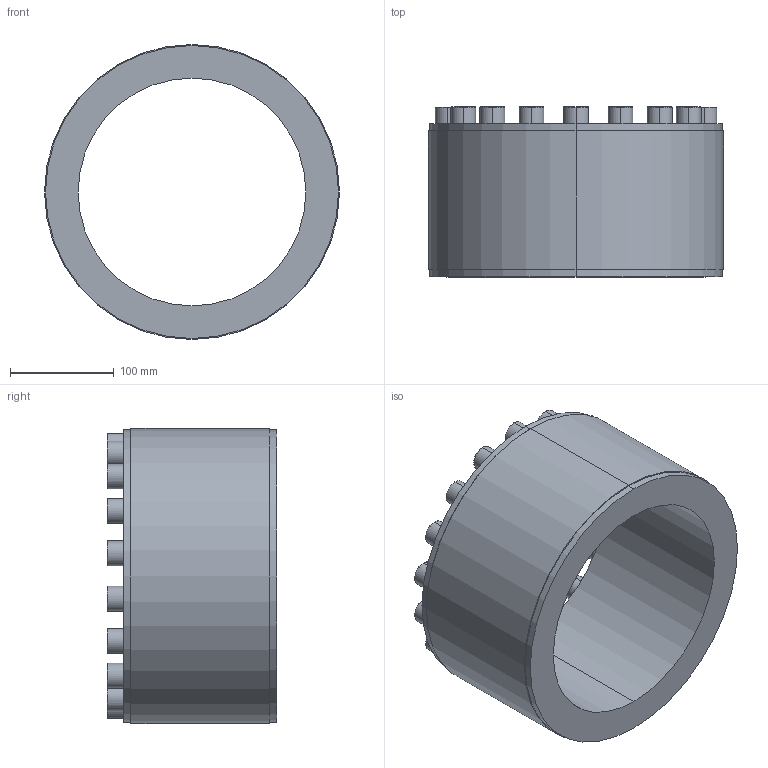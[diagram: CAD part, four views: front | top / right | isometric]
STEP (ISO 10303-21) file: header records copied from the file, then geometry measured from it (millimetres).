
FILE_DESCRIPTION (( 'STEP AP203' ), '1' );
FILE_NAME ('PL-D1 220-285.STEP', '2021-10-23T00:23:14', ( '' ), ( '' ), 'SwSTEP 2.0', 'SolidWorks 2018', '' );
FILE_SCHEMA (( 'CONFIG_CONTROL_DESIGN' ));
Length unit declared in the file: millimetre
Products named in the file (1): PL-D1 220-285
Bounding box: 285 x 164 x 285 mm (x, y, z)
Volume: 3908825.1 mm3; surface area: 314681.1 mm2
Topology: 1 solids, 1 shells, 228 faces, 528 edges, 340 vertices
Faces by surface type: plane 148, cylinder 44, torus 36
Entity records: 6525 total; most frequent: DIRECTION 1146, CARTESIAN_POINT 1097, ORIENTED_EDGE 1056, EDGE_CURVE 528, AXIS2_PLACEMENT_3D 389, VECTOR 368, LINE 368, VERTEX_POINT 340
